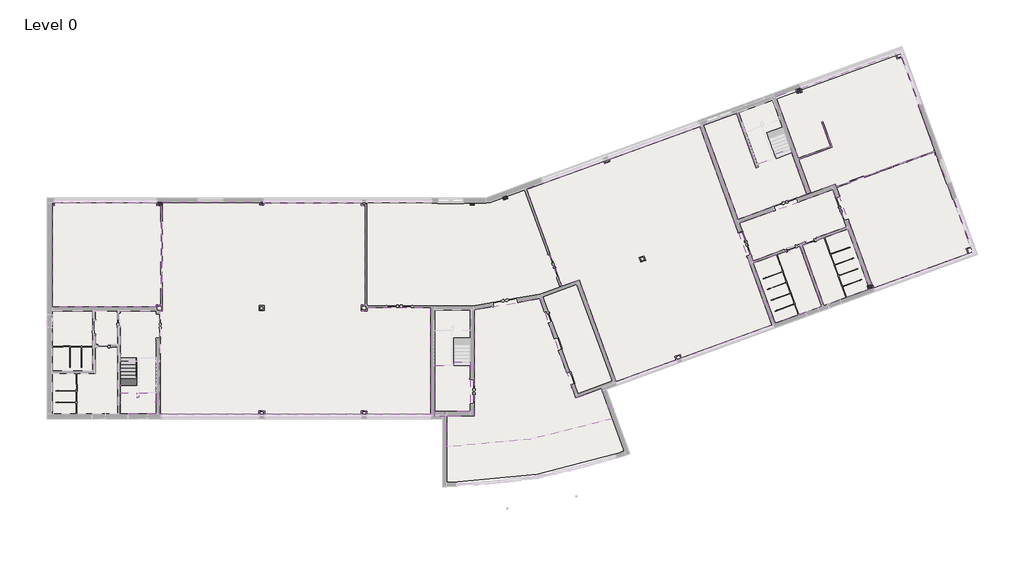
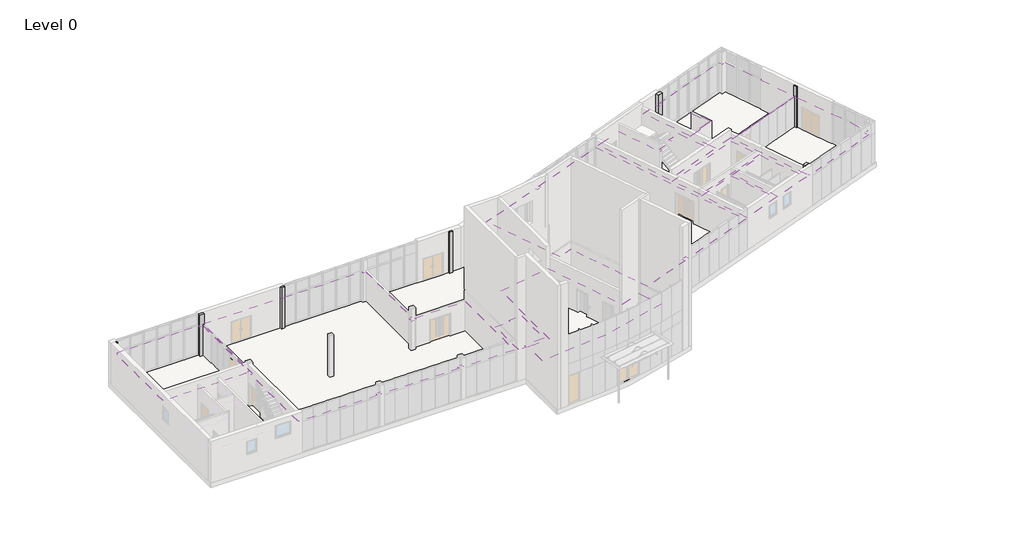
# One storey, part 10 of 14: 11 coverings, 8 columns, 4 proxies, 2 slabs, 1 stair flight.
"""IFC4 building model written with IfcOpenShell, lengths in millimetres."""

import ifcopenshell
import ifcopenshell.guid

model = None  # the IFC model being written
_history = None  # IfcOwnerHistory: only IFC2X3 demands one
_inside = {}  # id of a spatial element -> (the spatial element, [elements in it])
_under = {}  # id of a project, library or spatial element -> (it, [spatial elements below it])
_declared = {}  # id of a project -> (the project, [libraries it declares])
_typed = {}  # id of a type object -> (the type object, [elements of that type])
_made_of = {}  # id of a material, layer set ... -> (it, [elements and type objects made of it])


def new_model(schema):
    """Start an empty IFC model of exactly this schema.

    Asked for "IFC4X3", IfcOpenShell would pick the latest addendum, in which some entities
    have other attributes; the version numbers below select the first issue.
    IFC2X3 requires an IfcOwnerHistory on every rooted entity: one is made here for all.
    """
    global model, _history
    if schema == "IFC4X3":
        model = ifcopenshell.file(schema_version=(4, 3, 0, 0))
    else:
        model = ifcopenshell.file(schema=schema)
    _inside.clear()
    _under.clear()
    _declared.clear()
    _typed.clear()
    _made_of.clear()
    _history = None
    if model.schema == "IFC2X3":
        org = make("IfcOrganization", Name="unknown")
        user = make(
            "IfcPersonAndOrganization",
            ThePerson=make("IfcPerson", FamilyName="unknown"),
            TheOrganization=org,
        )
        app = make(
            "IfcApplication",
            ApplicationDeveloper=org,
            Version="unknown",
            ApplicationFullName="unknown",
            ApplicationIdentifier="unknown",
        )
        _history = make(
            "IfcOwnerHistory",
            OwningUser=user,
            OwningApplication=app,
            ChangeAction="ADDED",
            CreationDate=0,
        )
    return model


def make(cls, **values):
    """One entity of the class cls with the attributes given. An attribute that is None is left unset."""
    return model.create_entity(
        cls, **{name: value for name, value in values.items() if value is not None}
    )


def rooted(cls, **values):
    """An entity with a GlobalId (a new one), such as an element, a storey or a relation."""
    return make(cls, GlobalId=ifcopenshell.guid.new(), OwnerHistory=_history, **values)


def si_unit(unit_type, name, prefix=None):
    """IfcSIUnit, for example si_unit("LENGTHUNIT", "METRE", prefix="MILLI")."""
    return make("IfcSIUnit", UnitType=unit_type, Prefix=prefix, Name=name)


def assignment(units):
    """IfcUnitAssignment: the units of a project."""
    return None if units is None else make("IfcUnitAssignment", Units=units)


def point(xyz):
    """IfcCartesianPoint."""
    return None if xyz is None else make("IfcCartesianPoint", Coordinates=xyz)


def direction(xyz):
    """IfcDirection."""
    return None if xyz is None else make("IfcDirection", DirectionRatios=xyz)


def frame(location, z_axis=None, x_axis=None):
    """IfcAxis2Placement3D, a coordinate frame: its origin and axes. An axis left out is left unset."""
    return make(
        "IfcAxis2Placement3D",
        Location=point(location),
        Axis=direction(z_axis),
        RefDirection=direction(x_axis),
    )


def frame_2d(location, x_axis=None):
    """IfcAxis2Placement2D, a coordinate frame in the plane: its origin and x axis."""
    return make(
        "IfcAxis2Placement2D", Location=point(location), RefDirection=direction(x_axis)
    )


def origin():
    """The frame at (0, 0, 0) with its axes left unset."""
    return frame((0.0, 0.0, 0.0))


def origin_with_axes():
    """The frame at (0, 0, 0) with the z axis (0, 0, 1) and the x axis (1, 0, 0) written out."""
    return frame((0.0, 0.0, 0.0), z_axis=(0.0, 0.0, 1.0), x_axis=(1.0, 0.0, 0.0))


def place(relative_to, where):
    """IfcLocalPlacement: puts the frame where relative to a parent placement (None: the world)."""
    return make(
        "IfcLocalPlacement", PlacementRelTo=relative_to, RelativePlacement=where
    )


def context(
    kind, dimensions, precision=None, world=None, true_north=None, identifier=None
):
    """IfcGeometricRepresentationContext, for example the 3D "Model" context."""
    return make(
        "IfcGeometricRepresentationContext",
        ContextIdentifier=identifier,
        ContextType=kind,
        CoordinateSpaceDimension=dimensions,
        Precision=precision,
        WorldCoordinateSystem=world,
        TrueNorth=true_north,
    )


def project(units=None, contexts=None):
    """IfcProject with its units and contexts."""
    return rooted(
        "IfcProject",
        Name="project",
        RepresentationContexts=contexts,
        UnitsInContext=assignment(units),
    )


def spatial(cls, under=None, at=None, **own):
    """A site, building, storey or space (cls), placed at a placement, below another one or the project."""
    s = rooted(cls, ObjectPlacement=at, **own)
    if under is not None:
        _under.setdefault(under.id(), (under, []))[1].append(s)
    return s


def polyline(points):
    """IfcPolyline through the points."""
    return make("IfcPolyline", Points=[point(p) for p in points])


def circle_curve(where, radius):
    """IfcCircle in the frame where."""
    return make("IfcCircle", Position=where, Radius=radius)


def ellipse_curve(where, semi_axis1, semi_axis2):
    """IfcEllipse in the frame where."""
    return make(
        "IfcEllipse", Position=where, SemiAxis1=semi_axis1, SemiAxis2=semi_axis2
    )


def trimmed(basis, trim1, trim2, sense, master):
    """IfcTrimmedCurve: the piece of a basis curve between two trims."""
    return make(
        "IfcTrimmedCurve",
        BasisCurve=basis,
        Trim1=trim1,
        Trim2=trim2,
        SenseAgreement=sense,
        MasterRepresentation=master,
    )


def segment(curve, same_sense, transition):
    """IfcCompositeCurveSegment."""
    return make(
        "IfcCompositeCurveSegment",
        Transition=transition,
        SameSense=same_sense,
        ParentCurve=curve,
    )


def composite_curve(segments, self_intersect=None):
    """IfcCompositeCurve: segments joined end to end."""
    return make("IfcCompositeCurve", Segments=segments, SelfIntersect=self_intersect)


def outline(outer, holes=None, kind="AREA"):
    """IfcArbitraryClosedProfileDef: a profile drawn as a closed curve; with holes, ...WithVoids."""
    if holes is None:
        return make("IfcArbitraryClosedProfileDef", ProfileType=kind, OuterCurve=outer)
    return make(
        "IfcArbitraryProfileDefWithVoids",
        ProfileType=kind,
        OuterCurve=outer,
        InnerCurves=holes,
    )


def extrude(swept, where, along, depth):
    """IfcExtrudedAreaSolid: the profile swept, set in the frame where, extruded along a direction by depth."""
    return make(
        "IfcExtrudedAreaSolid",
        SweptArea=swept,
        Position=where,
        ExtrudedDirection=direction(along),
        Depth=depth,
    )


def faces_of(points, faces, orient=None, outer=None):
    """IfcFace entities. A face is a list of loops; a loop is a list of indices into points, from 0.

    orient and outer hold one flag for each loop. By default every Orientation is true, the
    first loop of a face is its IfcFaceOuterBound and the others are IfcFaceBound.
    """
    made = []
    for i, loops in enumerate(faces):
        bounds = []
        for j, loop in enumerate(loops):
            is_outer = j == 0 if outer is None else outer[i][j]
            bounds.append(
                make(
                    "IfcFaceOuterBound" if is_outer else "IfcFaceBound",
                    Bound=make("IfcPolyLoop", Polygon=[points[k] for k in loop]),
                    Orientation=True if orient is None else orient[i][j],
                )
            )
        made.append(make("IfcFace", Bounds=bounds))
    return made


def faceted_brep(points, faces, orient=None, outer=None, voids=None):
    """IfcFacetedBrep: a solid bounded by flat faces; with voids (closed shells), ...WithVoids."""
    shared = [point(p) for p in points]
    hull = make("IfcClosedShell", CfsFaces=faces_of(shared, faces, orient, outer))
    if voids is None:
        return make("IfcFacetedBrep", Outer=hull)
    return make(
        "IfcFacetedBrepWithVoids",
        Outer=hull,
        Voids=[
            make(cls, CfsFaces=faces_of(shared, fs, o, b)) for cls, fs, o, b in voids
        ],
    )


def shape(context_of_items, identifier, shape_type, items):
    """IfcShapeRepresentation: the items that make up one representation, for example the "Body"."""
    return make(
        "IfcShapeRepresentation",
        ContextOfItems=context_of_items,
        RepresentationIdentifier=identifier,
        RepresentationType=shape_type,
        Items=items,
    )


def source(mapping_origin, context_of_items, identifier, shape_type, items):
    """IfcRepresentationMap: a shape defined once, which mapped items show again and again."""
    return make(
        "IfcRepresentationMap",
        MappingOrigin=mapping_origin,
        MappedRepresentation=shape(context_of_items, identifier, shape_type, items),
    )


def transform(
    local_origin,
    x_axis=None,
    y_axis=None,
    z_axis=None,
    scale=None,
    scale2=None,
    scale3=None,
    uniform=True,
):
    """IfcCartesianTransformationOperator3D, or its non-uniform kind. x_axis, y_axis, z_axis: its Axis1, 2, 3."""
    if uniform:
        return make(
            "IfcCartesianTransformationOperator3D",
            Axis1=direction(x_axis),
            Axis2=direction(y_axis),
            LocalOrigin=point(local_origin),
            Scale=scale,
            Axis3=direction(z_axis),
        )
    return make(
        "IfcCartesianTransformationOperator3DnonUniform",
        Axis1=direction(x_axis),
        Axis2=direction(y_axis),
        LocalOrigin=point(local_origin),
        Scale=scale,
        Axis3=direction(z_axis),
        Scale2=scale2,
        Scale3=scale3,
    )


def mapped(mapping_source, mapping_target):
    """IfcMappedItem: shows the shape of a source again, moved by a transform."""
    return make(
        "IfcMappedItem", MappingSource=mapping_source, MappingTarget=mapping_target
    )


def made_of(thing, what):
    """Note that an element or type object is made of a material, layer set ...; save() writes the relation."""
    if what is not None:
        _made_of.setdefault(what.id(), (what, []))[1].append(thing)
    return thing


def element(
    cls,
    number,
    at=None,
    inside=None,
    cuts=None,
    type_object=None,
    material=None,
    context=None,
    identifier="Body",
    shape_type=None,
    held_by="IfcProductDefinitionShape",
    body=None,
    shapes=None,
    **own,
):
    """One element of the class cls, such as IfcWall. Its Tag is "e" and its number.

    at: its placement. inside: the storey or other place that contains it. cuts: it is an
    opening in that element (IfcRelVoidsElement). A single representation is given by context,
    identifier, shape_type and body (its items); several are given by shapes. held_by: the class
    of the entity that holds the representations. save() writes the other relations.
    """
    e = rooted(cls, Tag="e%d" % number, ObjectPlacement=at, **own)
    if body is not None:
        shapes = [shape(context, identifier, shape_type, body)]
    if shapes is not None:
        e.Representation = make(held_by, Representations=shapes)
    if inside is not None:
        _inside.setdefault(inside.id(), (inside, []))[1].append(e)
    if cuts is not None:
        rooted(
            "IfcRelVoidsElement", RelatingBuildingElement=cuts, RelatedOpeningElement=e
        )
    if type_object is not None:
        _typed.setdefault(type_object.id(), (type_object, []))[1].append(e)
    return made_of(e, material)


def aggregate(whole, parts):
    """IfcRelAggregates: a whole, such as a stair, and the parts it consists of."""
    return rooted("IfcRelAggregates", RelatingObject=whole, RelatedObjects=parts)


def save(model, path):
    """Write the relations noted so far, then the file.

    IfcRelAggregates (storeys below a building ...), IfcRelContainedInSpatialStructure (elements
    in a storey), IfcRelDefinesByType, IfcRelAssociatesMaterial and IfcRelDeclares: one each for
    every whole, place, type object, material and project.
    """
    for whole, parts in _under.values():
        aggregate(whole, parts)
    for where, things in _inside.values():
        rooted(
            "IfcRelContainedInSpatialStructure",
            RelatedElements=things,
            RelatingStructure=where,
        )
    for kind, things in _typed.values():
        rooted("IfcRelDefinesByType", RelatedObjects=things, RelatingType=kind)
    for what, things in _made_of.values():
        rooted("IfcRelAssociatesMaterial", RelatedObjects=things, RelatingMaterial=what)
    for by, libraries in _declared.values():
        rooted("IfcRelDeclares", RelatingContext=by, RelatedDefinitions=libraries)
    model.write(path)


def plane_surface(at):
    """IfcPlane: the flat surface through the origin of the frame at, square to its z axis."""
    return make("IfcPlane", Position=at)


def cylinder_surface(at, radius):
    """IfcCylindricalSurface: all points at the distance radius from the z axis of the frame at."""
    return make("IfcCylindricalSurface", Position=at, Radius=radius)


def revolved_surface(curve, axis_point, axis_direction):
    """IfcSurfaceOfRevolution: the curve turned about the line through axis_point along axis_direction."""
    return make(
        "IfcSurfaceOfRevolution",
        SweptCurve=make("IfcArbitraryOpenProfileDef", ProfileType="CURVE", Curve=curve),
        AxisPosition=make("IfcAxis1Placement", Location=point(axis_point), Axis=direction(axis_direction)),
    )


def advanced_brep(points, edges, surfaces, faces):
    """IfcAdvancedBrep: a solid bounded by faces that lie on surfaces and meet in shared edges.

    An edge is (start, end): straight between two places in points (the first is 0);
    or (start, end, curve); or (start, end, curve, False) where it runs against its curve.
    A face is (place in surfaces, loops), or (place, loops, False) where it looks against
    its surface's normal. A loop lists edges by number (the first is 1), with a minus sign
    where the edge is run from its end to its start. The first loop is the outer one.
    """
    corners = [point(p) for p in points]
    vertices = [make("IfcVertexPoint", VertexGeometry=c) for c in corners]
    made = []
    for start, end, *more in edges:
        made.append(
            make(
                "IfcEdgeCurve",
                EdgeStart=vertices[start],
                EdgeEnd=vertices[end],
                EdgeGeometry=more[0] if more else make("IfcPolyline", Points=[corners[start], corners[end]]),
                SameSense=more[1] if len(more) > 1 else True,
            )
        )
    hull = []
    for where, loops, *sense in faces:
        bounds = []
        for j, loop in enumerate(loops):
            ring = [make("IfcOrientedEdge", EdgeElement=made[abs(k) - 1], Orientation=k > 0) for k in loop]
            bounds.append(
                make(
                    "IfcFaceOuterBound" if j == 0 else "IfcFaceBound",
                    Bound=make("IfcEdgeLoop", EdgeList=ring),
                    Orientation=True,
                )
            )
        hull.append(make("IfcAdvancedFace", Bounds=bounds, FaceSurface=surfaces[where], SameSense=sense[0] if sense else True))
    return make("IfcAdvancedBrep", Outer=make("IfcClosedShell", CfsFaces=hull))


def support_metal_circular1_support_metal_circular_016e83f0(model_context):
    return source(origin(), model_context, "Body", "SolidModel", [
        advanced_brep(
        [(-6.0, 0.0, 0.0), (6.0, 0.0, 0.0), (-6.0, 0.0, -38.0), (6.0, 0.0, -38.0), (6.0, 12.0, -50.0), (-6.0, 12.0, -50.0), (-6.0, 63.0, -50.0), (6.0, 63.0, -50.0)],
        [
            (0, 1, circle_curve(origin_with_axes(), 6.0)),
            (1, 0, circle_curve(origin_with_axes(), 6.0)),
            (0, 2),
            (2, 3, circle_curve(frame((0.0, 0.0, -38.0), z_axis=(0.0, 0.0, 1.0), x_axis=(1.0, 0.0, 0.0)), 6.0)),
            (3, 1),
            (3, 2, circle_curve(frame((0.0, 0.0, -38.0), z_axis=(0.0, 0.0, 1.0), x_axis=(1.0, 0.0, 0.0)), 6.0)),
            (4, 3, circle_curve(frame((6.0, 12.0, -38.0), z_axis=(-1.0, 0.0, 0.0), x_axis=(0.0, -1.0, 0.0)), 12.0)),
            (2, 5, circle_curve(frame((-6.0, 12.0, -38.0), z_axis=(1.0, 0.0, 0.0), x_axis=(0.0, -1.0, 0.0)), 12.0)),
            (5, 4, circle_curve(frame((0.0, 12.0, -50.0), z_axis=(0.0, -1.0, 0.0), x_axis=(1.0, 0.0, 0.0)), 6.0)),
            (4, 5, circle_curve(frame((0.0, 12.0, -50.0), z_axis=(0.0, -1.0, 0.0), x_axis=(1.0, 0.0, 0.0)), 6.0)),
            (6, 7, circle_curve(frame((0.0, 63.0, -50.0), z_axis=(0.0, 1.0, 0.0), x_axis=(1.0, 0.0, 0.0)), 6.0)),
            (7, 6, circle_curve(frame((0.0, 63.0, -50.0), z_axis=(0.0, 1.0, 0.0), x_axis=(1.0, 0.0, 0.0)), 6.0)),
            (5, 6),
            (7, 4),
        ],
        [
            plane_surface(origin_with_axes()),
            cylinder_surface(origin_with_axes(), 6.0),
            revolved_surface(trimmed(ellipse_curve(frame((0.0, 0.0, -38.0), z_axis=(0.0, 0.0, 1.0), x_axis=(1.0, 0.0, 0.0)), 6.0, 6.0), [point((-6.0, 0.0, -38.0))], [point((6.0, 0.0, -38.0))], True, "CARTESIAN"), (0.0, 12.0, -38.0), (1.0, 0.0, 0.0)),
            revolved_surface(trimmed(ellipse_curve(frame((0.0, 0.0, -38.0), z_axis=(0.0, 0.0, 1.0), x_axis=(1.0, 0.0, 0.0)), 6.0, 6.0), [point((6.0, 0.0, -38.0))], [point((-6.0, 0.0, -38.0))], True, "CARTESIAN"), (0.0, 12.0, -38.0), (1.0, 0.0, 0.0)),
            plane_surface(frame((0.0, 63.0, -50.0), z_axis=(0.0, 1.0, 0.0), x_axis=(1.0, 0.0, 0.0))),
            cylinder_surface(frame((0.0, 12.0, -50.0), z_axis=(0.0, -1.0, 0.0), x_axis=(1.0, 0.0, 0.0)), 6.0),
        ],
        [
            (0, [[1, 2]]),
            (1, [[-1, 3, 4, 5]]),
            (1, [[-2, -5, 6, -3]]),
            (2, [[7, -4, 8, 9]]),
            (3, [[-8, -6, -7, 10]]),
            (4, [[11, 12]]),
            (5, [[-9, 13, -12, 14]]),
            (5, [[-10, -14, -11, -13]]),
        ],
    ),
        extrude(outline(composite_curve([segment(trimmed(circle_curve(frame_2d((-50.0, 0.0)), 25.0), [point((-50.0, -25.0))], [point((-50.0, 25.0))], False, "CARTESIAN"), True, "CONTINUOUS"), segment(trimmed(circle_curve(frame_2d((-50.0, 0.0)), 25.0), [point((-50.0, 25.0))], [point((-50.0, -25.0))], False, "CARTESIAN"), True, "CONTINUOUS")], self_intersect=False)), frame((0.0, 63.0, 0.0), z_axis=(0.0, 1.0, 0.0), x_axis=(0.0, 0.0, 1.0)), (0.0, 0.0, 1.0), 12.0),
    ])


model = new_model("IFC4")

# Units and contexts
model_context = context("Model", 3, world=origin())
ifc_project = project(units=[si_unit("LENGTHUNIT", "METRE", prefix="MILLI")], contexts=[model_context])

# Site, building, storey
site = spatial("IfcSite", under=ifc_project)
building = spatial("IfcBuilding", under=site)
storey = spatial("IfcBuildingStorey", under=building, Name="Level 0", Elevation=0.0)

# Proxies
placement = place(None, origin())
support_metal_circular1_support_metal_circular_shape = support_metal_circular1_support_metal_circular_016e83f0(model_context)
element("IfcBuildingElementProxy", 1, Name="Support - Metal - Circular1 : Support - Metal - Circular", ObjectType="Support - Metal - Circular1 : Support - Metal - Circular", at=placement, inside=storey, context=model_context, shape_type="MappedRepresentation", body=[
    mapped(support_metal_circular1_support_metal_circular_shape, transform((5322.6000024, 3439.4755703, 1669.5820057), x_axis=(0.0, 1.0, 0.0), y_axis=(-1.0, 0.0, 0.0), z_axis=(0.0, 0.0, 1.0))),
])
element("IfcBuildingElementProxy", 2, Name="Support - Metal - Circular1 : Support - Metal - Circular", ObjectType="Support - Metal - Circular1 : Support - Metal - Circular", at=placement, inside=storey, context=model_context, shape_type="MappedRepresentation", body=[
    mapped(support_metal_circular1_support_metal_circular_shape, transform((5322.6000024, 2334.2312733, 2453.300689), x_axis=(0.0, 1.0, 0.0), y_axis=(-1.0, 0.0, 0.0), z_axis=(0.0, 0.0, 1.0))),
])
element("IfcBuildingElementProxy", 3, Name="Support - Metal - Circular1 : Support - Metal - Circular", ObjectType="Support - Metal - Circular1 : Support - Metal - Circular", at=placement, inside=storey, context=model_context, shape_type="MappedRepresentation", body=[
    mapped(support_metal_circular1_support_metal_circular_shape, transform((5322.6000024, 1100.0, 2832.1192282), x_axis=(0.0, 1.0, 0.0), y_axis=(-1.0, 0.0, 0.0), z_axis=(0.0, 0.0, 1.0))),
])
element("IfcBuildingElementProxy", 4, Name="Support - Metal - Circular1 : Support - Metal - Circular", ObjectType="Support - Metal - Circular1 : Support - Metal - Circular", at=placement, inside=storey, context=model_context, shape_type="MappedRepresentation", body=[
    mapped(support_metal_circular1_support_metal_circular_shape, transform((7761.8000023, 1150.0, 2832.1192282), x_axis=(0.0, -1.0, 0.0), y_axis=(1.0, 0.0, 0.0), z_axis=(0.0, 0.0, 1.0))),
])

# Columns
element("IfcColumn", 5, ObjectType="Columns_Rectangular : 300x300mm", at=placement, inside=storey, context=model_context, shape_type="SweptSolid", body=[
    extrude(outline(polyline([(562.2000028, 15173.2000005), (433.0000024, 15173.2000005), (433.0000025, 15351.4000013), (562.2000028, 15351.4000013), (562.2000028, 15173.2000005)])), origin_with_axes(), (0.0, 0.0, 1.0), 3900.0),
])
element("IfcColumn", 6, ObjectType="Columns_Rectangular : 300x300mm", at=placement, inside=storey, context=model_context, shape_type="SweptSolid", body=[
    extrude(outline(polyline([(32891.9713576, 15685.7159924), (32610.0635714, 15583.1099494), (32541.5911387, 15771.236412), (32823.498925, 15873.842455), (32891.9713576, 15685.7159924)])), origin_with_axes(), (0.0, 0.0, 1.0), 3900.0),
])
element("IfcColumn", 7, ObjectType="Columns_Rectangular : 300x300mm", at=placement, inside=storey, context=model_context, shape_type="SweptSolid", body=[
    extrude(outline(polyline([(30512.2000025, 15213.2000005), (30212.2000025, 15213.2000005), (30212.2000025, 15351.4000004), (30512.2000025, 15351.4000004), (30512.2000025, 15213.2000005)])), origin_with_axes(), (0.0, 0.0, 1.0), 3900.0),
])
element("IfcColumn", 8, ObjectType="Columns_Rectangular : 300x300mm", at=placement, inside=storey, context=model_context, shape_type="Brep", body=[
    faceted_brep([(63263.387227, 19077.9273787, 3900.0), (63365.99327, 18796.0195924, 3900.0), (63459.9625309, 18830.2216063, 3900.0), (63357.356488, 19112.1293926, 3900.0), (63459.9625309, 18830.2216063, 0.0), (63365.99327, 18796.0195924, 0.0), (63279.6331838, 19033.2919792, 0.0), (63271.0826803, 19056.7842947, 0.0), (63263.387227, 19077.9273787, 0.0), (63357.356488, 19112.1293926, 0.0)], [[[0, 1, 2, 3]], [[4, 5, 6, 7, 8, 9]], [[8, 0, 3, 9]], [[1, 0, 8, 7, 6, 5]], [[1, 5, 4, 2]], [[3, 2, 4, 9]]]),
])
element("IfcColumn", 9, ObjectType="Columns_Rectangular : 300x300mm", at=placement, inside=storey, context=model_context, shape_type="SweptSolid", body=[
    extrude(outline(polyline([(15512.2000024, 15213.2000005), (15212.2000024, 15213.2000005), (15212.2000024, 15413.4000007), (15512.2000024, 15413.4000007), (15512.2000024, 15213.2000005)])), origin_with_axes(), (0.0, 0.0, 1.0), 3900.0),
])
element("IfcColumn", 10, ObjectType="Columns_Rectangular : 400x400mm", at=placement, inside=storey, context=model_context, shape_type="Brep", body=[
    faceted_brep([(7887.2000028, 15163.2000005, 3900.0), (8287.2000028, 15163.2000005, 3900.0), (8287.2000028, 15413.4000008, 3900.0), (7887.2000028, 15413.4000008, 3900.0), (7887.2000028, 15413.4000008, 0.0), (8287.2000028, 15413.4000008, 0.0), (8287.2000028, 15188.4000008, 0.0), (8167.2000028, 15188.4000008, 0.0), (8167.2000028, 15163.2000005, 0.0), (7887.2000028, 15163.2000005, 0.0), (8167.2000028, 15163.2000005, 2900.0), (8287.2000028, 15163.2000005, 2900.0), (8287.2000028, 15188.4000008, 2900.0), (8167.2000028, 15188.4000008, 2900.0)], [[[0, 1, 2, 3]], [[4, 5, 6, 7, 8, 9]], [[9, 0, 3, 4]], [[1, 0, 9, 8, 10, 11]], [[2, 1, 11, 12, 6, 5]], [[3, 2, 5, 4]], [[7, 13, 10, 8]], [[13, 7, 6, 12]], [[13, 12, 11, 10]]]),
])
element("IfcColumn", 11, ObjectType="Columns_Rectangular : 400x400mm", at=placement, inside=storey, context=model_context, shape_type="SweptSolid", body=[
    extrude(outline(polyline([(53911.2024396, 23282.8815641), (53535.3253912, 23146.0735068), (53428.5467025, 23439.4455429), (53804.4237508, 23576.2536002), (53911.2024396, 23282.8815641)])), origin_with_axes(), (0.0, 0.0, 1.0), 3900.0),
])
element("IfcColumn", 12, ObjectType="Columns_Rectangular : 400x400mm", at=placement, inside=storey, context=model_context, shape_type="Brep", body=[
    faceted_brep([(58904.6965317, 9563.3693005, 3900.0), (58528.8194834, 9426.5612432, 3900.0), (58614.3929232, 9191.4501495, 3900.0), (58990.2699716, 9328.2582068, 3900.0), (58614.3929232, 9191.4501495, 0.0), (58528.8194834, 9426.5612432, 0.0), (58622.7887454, 9460.7632574, 0.0), (58857.7119006, 9546.2682933, 0.0), (58904.6965317, 9563.3693005, 0.0), (58990.2699716, 9328.2582068, 0.0)], [[[0, 1, 2, 3]], [[4, 5, 6, 7, 8, 9]], [[1, 0, 8, 7, 6, 5]], [[1, 5, 4, 2]], [[8, 0, 3, 9]], [[3, 2, 4, 9]]]),
])

# Coverings
element("IfcCovering", 13, ObjectType="24\" x 24\"_Grid", at=placement, inside=storey, context=model_context, shape_type="SweptSolid", body=[
    extrude(outline(polyline([(22882.3447354, 7663.2000003), (22882.3447354, 7893.2000004), (27412.2000031, 7893.2000005), (27412.2000029, 269.9999995), (22862.3447354, 269.9999995), (22862.3447354, 538.199999), (22462.2000028, 538.199999), (22462.2000028, 269.9999995), (15562.3447355, 269.9999995), (15562.3447355, 538.199999), (15162.2000029, 538.199999), (15162.2000029, 269.9999995), (8187.2000027, 269.9999995), (8187.2000027, 313.0000001), (8087.2000022, 313.0000001), (8087.2000024, 7638.2000005), (8287.2000028, 7638.2000005), (8287.2000028, 15413.4000008), (15212.2000024, 15413.4000007), (15212.2000024, 15213.2000005), (15512.2000024, 15213.2000005), (15512.2000024, 15363.2000005), (22462.2000028, 15363.2000005), (22462.2000028, 15188.2000019), (22742.3447354, 15188.2000019), (22742.3447354, 8063.2000003), (22462.2000024, 8063.2000003), (22462.2000024, 7663.2000003), (22882.3447354, 7663.2000003)]), holes=[polyline([(15537.2000025, 7688.2000003), (15537.2000025, 8038.2000003), (15187.2000024, 8038.2000003), (15187.2000024, 7688.2000003), (15537.2000025, 7688.2000003)])]), frame((0.0, 0.0, 2800.0), z_axis=(0.0, 0.0, 1.0), x_axis=(1.0, 0.0, 0.0)), (0.0, 0.0, 1.0), 52.0),
])
element("IfcCovering", 14, ObjectType="24\" x 24\"_Grid", at=placement, inside=storey, context=model_context, shape_type="SweptSolid", body=[
    extrude(outline(polyline([(37985.6557273, 9877.5855238), (36735.8645417, 9422.6987332), (34204.8470773, 16376.6120655), (35384.1613169, 16805.8473456), (35396.8160621, 16771.0787187), (39742.8264311, 18352.8971307), (39807.1946218, 18176.0469802), (40183.0716701, 18312.8550375), (40118.7034794, 18489.705188), (46579.1582494, 20841.1184239), (51752.691745, 6626.9519648), (45292.236975, 4275.5387287), (45193.66677, 4546.3581414), (44817.7897216, 4409.5500841), (44916.3599267, 4138.7306713), (40640.8265039, 2582.5637698), (37985.6557273, 9877.5855238)]), holes=[polyline([(42724.7984316, 11256.6346278), (42605.0913814, 11585.5270451), (42276.1989642, 11465.8199949), (42395.9060144, 11136.9275777), (42724.7984316, 11256.6346278)])]), frame((0.0, 0.0, 2800.0), z_axis=(0.0, 0.0, 1.0), x_axis=(1.0, 0.0, 0.0)), (0.0, 0.0, 1.0), 52.0),
])
element("IfcCovering", 15, ObjectType="24\" x 24\"_Grid", at=placement, inside=storey, context=model_context, shape_type="SweptSolid", body=[
    extrude(outline(polyline([(28408.3766929, 146.0000008), (27712.2000028, 146.0000009), (27712.200003, 3763.2000006), (29052.2000029, 3763.2000006), (29052.2000029, 4013.2000006), (30212.2000024, 4013.2000006), (30212.2000023, 470.0000006), (28408.3766929, 470.0000006), (28408.3766929, 146.0000008)])), frame((0.0, 0.0, 2800.0), z_axis=(0.0, 0.0, 1.0), x_axis=(1.0, 0.0, 0.0)), (0.0, 0.0, 1.0), 52.0),
])
element("IfcCovering", 16, ObjectType="24\" x 24\"_Grid", at=placement, inside=storey, context=model_context, shape_type="SweptSolid", body=[
    extrude(outline(polyline([(50622.8530138, 17860.8385478), (50776.9710581, 17916.9066227), (50697.0762506, 18136.4158024), (52050.0788572, 18628.8684779), (51964.5738214, 18863.791633), (53045.2203355, 19257.1147979), (54237.3999491, 15981.6282294), (49318.7201794, 14191.3752015), (46856.9617939, 20955.0007783), (49187.8828531, 21803.3866622), (50622.8530138, 17860.8385478)])), frame((0.0, 0.0, 2800.0), z_axis=(0.0, 0.0, 1.0), x_axis=(1.0, 0.0, 0.0)), (0.0, 0.0, 1.0), 52.0),
])
element("IfcCovering", 17, ObjectType="24\" x 24\"_Grid", at=placement, inside=storey, context=model_context, shape_type="SweptSolid", body=[
    extrude(outline(polyline([(50396.1862368, 11231.0615383), (49421.3262224, 13909.4674153), (56069.6515144, 16329.2599291), (57044.5115288, 13650.8540521), (50396.1862368, 11231.0615383)])), frame((0.0, 0.0, 2800.0), z_axis=(0.0, 0.0, 1.0), x_axis=(1.0, 0.0, 0.0)), (0.0, 0.0, 1.0), 52.0),
])
element("IfcCovering", 18, ObjectType="24\" x 24\"_Grid", at=placement, inside=storey, context=model_context, shape_type="SweptSolid", body=[
    extrude(outline(polyline([(59011.8172406, 9269.0575717), (58904.6965317, 9563.3693005), (58857.7119006, 9546.2682933), (56325.9077899, 16502.3429187), (63256.1408745, 19024.7414778), (63351.0514643, 18763.9767754), (63468.5130346, 18806.7292907), (64639.3163891, 15589.9735111), (64698.5170243, 15611.5207802), (65929.7895403, 12228.6273452), (65588.6811194, 12104.4740334), (65730.6194788, 11714.5015961), (59011.8172406, 9269.0575717)])), frame((0.0, 0.0, 2800.0), z_axis=(0.0, 0.0, 1.0), x_axis=(1.0, 0.0, 0.0)), (0.0, 0.0, 1.0), 52.0),
])
element("IfcCovering", 19, ObjectType="24\" x 24\"_Grid", at=placement, inside=storey, context=model_context, shape_type="SweptSolid", body=[
    extrude(outline(polyline([(52027.7935973, 22929.6131071), (53428.5467025, 23439.4455429), (53535.3253912, 23146.0735068), (53911.2024395, 23282.8815641), (53817.0784962, 23541.4849732), (60535.8807344, 25986.9289976), (60664.8223283, 25632.6648797), (61005.9307492, 25756.8181916), (62237.203265, 22373.9247568), (62178.0026297, 22352.3774878), (63373.6024448, 19067.4939931), (56325.9077899, 16502.3429187), (56248.9532577, 16713.7737583), (54519.3077353, 16084.2342724), (53655.7108186, 18456.9473006), (56049.57777, 19328.2436156), (55378.2834324, 21172.6096503), (55289.0126334, 21140.1177367), (55927.8150575, 19385.0225009), (53623.218905, 18546.2180995), (52027.7935973, 22929.6131071)])), frame((0.0, 0.0, 2800.0), z_axis=(0.0, 0.0, 1.0), x_axis=(1.0, 0.0, 0.0)), (0.0, 0.0, 1.0), 52.0),
])
element("IfcCovering", 20, ObjectType="24\" x 24\"_Grid", at=placement, inside=storey, context=model_context, shape_type="SweptSolid", body=[
    extrude(outline(composite_curve([segment(polyline([(35172.4630866, 8542.9751377), (37756.3380613, 1443.836992), (39586.2234059, 2109.8607895), (40371.8140424, -48.5317453)]), True, "CONTINUOUS"), segment(trimmed(circle_curve(frame_2d((28027.924496, 36998.4991929)), 39049.3804108), [point((40371.8140424, -48.5317453))], [point((28564.8766926, -2047.1893375))], False, "CARTESIAN"), True, "CONTINUOUS"), segment(polyline([(28564.8766926, -2047.1893375), (28564.8766928, 170.0000006), (30512.2000023, 170.0000006), (30512.2000024, 7721.2450188), (35172.4630866, 8542.9751377)]), True, "CONTINUOUS")], self_intersect=False)), frame((0.0, 0.0, 2800.0), z_axis=(0.0, 0.0, 1.0), x_axis=(1.0, 0.0, 0.0)), (0.0, 0.0, 1.0), 52.0),
])
element("IfcCovering", 21, ObjectType="24\" x 24\"_Grid", at=placement, inside=storey, context=model_context, shape_type="SweptSolid", body=[
    extrude(outline(polyline([(7887.2000028, 15388.9000009), (7887.2000028, 15163.2000005), (8167.2000028, 15163.2000005), (8167.2000028, 8063.2000005), (7837.2000024, 8063.2000005), (7837.2000024, 7938.2000004), (433.0000013, 7938.2000004), (433.0000024, 15173.2000005), (562.2000028, 15173.2000005), (562.2000028, 15388.9000009), (7887.2000028, 15388.9000009)])), frame((0.0, 0.0, 2800.0), z_axis=(0.0, 0.0, 1.0), x_axis=(1.0, 0.0, 0.0)), (0.0, 0.0, 1.0), 52.0),
])
element("IfcCovering", 22, ObjectType="Plain", at=placement, inside=storey, context=model_context, shape_type="SweptSolid", body=[
    extrude(outline(polyline([(55295.3985864, 7983.4350033), (51966.0676312, 6771.6576357), (50405.2929092, 11059.8509413), (53734.6238645, 12271.628309), (55295.3985864, 7983.4350033)])), frame((0.0, 0.0, 2800.0), z_axis=(0.0, 0.0, 1.0), x_axis=(1.0, 0.0, 0.0)), (0.0, 0.0, 1.0), 57.0),
])
element("IfcCovering", 23, ObjectType="Plain", at=placement, inside=storey, context=model_context, shape_type="SweptSolid", body=[
    extrude(outline(polyline([(58661.3775542, 9208.5511566), (55449.5081762, 8039.5263068), (53888.7334543, 12327.7196125), (57100.6028323, 13496.7444623), (58661.3775542, 9208.5511566)])), frame((0.0, 0.0, 2800.0), z_axis=(0.0, 0.0, 1.0), x_axis=(1.0, 0.0, 0.0)), (0.0, 0.0, 1.0), 57.0),
])

# Slabs
element("IfcSlab", 24, ObjectType="8\"_Thickness", at=placement, inside=storey, context=model_context, shape_type="SolidModel", body=[
    faceted_brep([(6447.2000024, 1800.0, 1949.0), (5247.2000024, 1800.0, 1949.0), (5247.2000024, 1572.7280846, 1949.0), (5247.2000024, 300.0000001, 1949.0), (7837.2000023, 300.0000001, 1949.0), (7837.2000023, 1777.2719153, 1949.0), (7837.2000023, 1800.0, 1949.0), (6637.2000025, 1800.0, 1949.0), (6637.2000025, 1777.2719153, 1949.0), (6637.2000025, 1500.0, 1949.0), (6447.2000024, 1500.0, 1949.0), (6447.2000024, 1572.7280846, 1949.0), (6447.2000024, 1800.0, 1587.8435509), (6447.2000024, 1800.0, 1771.7272727), (6447.2000024, 1500.0, 1749.0), (6447.2000024, 1572.7280846, 1749.0), (5247.2000024, 1800.0, 1771.7272727), (5247.2000024, 1800.0, 1587.8435509), (5247.2000024, 1572.7280846, 1749.0), (5247.2000024, 300.0000001, 1749.0), (6637.2000025, 1800.0, 1765.1162782), (6637.2000025, 1777.2719153, 1749.0), (6637.2000025, 1500.0, 1749.0), (7837.2000023, 1777.2719153, 1749.0), (7837.2000023, 300.0000001, 1749.0), (7837.2000023, 1800.0, 1765.1162782)], [[[0, 1, 2, 3, 4, 5, 6, 7, 8, 9, 10, 11]], [[12, 13, 0, 11, 10, 14, 15]], [[1, 16, 17, 18, 19, 3, 2]], [[7, 20, 21, 22, 9, 8]], [[18, 15, 14, 22, 21, 23, 24, 19]], [[15, 18, 17, 12]], [[23, 21, 20, 25]], [[1, 0, 13, 12, 17, 16]], [[4, 3, 19, 24]], [[4, 24, 23, 25, 6, 5]], [[7, 6, 25, 20]], [[10, 9, 22, 14]]]),
    extrude(outline(polyline([(6447.2000024, 1800.0), (6447.2000024, 1500.0), (6637.2000025, 1500.0), (6637.2000025, 1800.0), (7837.2000023, 1800.0), (7837.2000023, 300.0000001), (5247.2000024, 300.0000001), (5247.2000024, 1800.0), (6447.2000024, 1800.0)])), frame((0.0, 0.0, 1949.0), z_axis=(0.0, 0.0, 1.0), x_axis=(1.0, 0.0, 0.0)), (0.0, 0.0, 1.0), 1.0),
])
element("IfcSlab", 25, ObjectType="Generic - 6\"", at=placement, inside=storey, context=model_context, shape_type="SweptSolid", body=[
    extrude(outline(composite_curve([segment(trimmed(circle_curve(frame_2d((28251.8766926, 34165.8732259)), 38761.3804108), [point((41238.0521583, -2355.4062989))], [point((28539.8766925, -4594.4372393))], False, "CARTESIAN"), True, "CONTINUOUS"), segment(polyline([(28539.8766925, -4594.4372393), (28539.8766928, 300.0000005), (407.9999989, 313.0000007), (408.0000013, 15363.2000005), (31601.9396293, 15363.2000005), (60886.1238516, 25974.8803698), (66023.0228145, 11861.366462), (39568.1602739, 2232.5839466), (41238.0521583, -2355.4062989)]), True, "CONTINUOUS")], self_intersect=False)), frame((0.0, 0.0, -140.0), z_axis=(0.0, 0.0, 1.0), x_axis=(1.0, 0.0, 0.0)), (0.0, 0.0, 1.0), 140.0),
])

# Stair flight
element("IfcStairFlight", 26, ObjectType="1/16\"_Tread-6\"_Depth", at=placement, inside=storey, context=model_context, shape_type="SolidModel", body=[
    faceted_brep([(6447.2000024, 4050.0, 176.2727273), (6447.2000024, 4300.0, 176.2727273), (5247.2000024, 4300.0, 176.2727273), (5247.2000024, 4050.0, 176.2727273), (6447.2000024, 4050.0, 0.0), (6447.2000024, 4300.0, 0.0), (5247.2000024, 4300.0, 0.0), (5247.2000024, 4050.0, 0.0), (6447.2000024, 3800.0, 353.5454545), (6447.2000024, 4050.0, 353.5454545), (5247.2000024, 4050.0, 353.5454545), (5247.2000024, 3800.0, 353.5454545), (6447.2000024, 3800.0, 169.6617328), (6447.2000024, 4039.2665462, 0.0), (5247.2000024, 4039.2665462, 0.0), (5247.2000024, 3800.0, 169.6617328), (6447.2000024, 3550.0, 530.8181818), (6447.2000024, 3800.0, 530.8181818), (5247.2000024, 3800.0, 530.8181818), (5247.2000024, 3550.0, 530.8181818), (6447.2000024, 3550.0, 346.93446), (5247.2000024, 3550.0, 346.93446), (6447.2000024, 3300.0, 708.0909091), (6447.2000024, 3550.0, 708.0909091), (5247.2000024, 3550.0, 708.0909091), (5247.2000024, 3300.0, 708.0909091), (6447.2000024, 3300.0, 524.2071873), (5247.2000024, 3300.0, 524.2071873), (6447.2000024, 3050.0, 885.3636364), (6447.2000024, 3300.0, 885.3636364), (5247.2000024, 3300.0, 885.3636364), (5247.2000024, 3050.0, 885.3636364), (6447.2000024, 3050.0, 701.4799146), (5247.2000024, 3050.0, 701.4799146), (6447.2000024, 2800.0, 1062.6363636), (6447.2000024, 3050.0, 1062.6363636), (5247.2000024, 3050.0, 1062.6363636), (5247.2000024, 2800.0, 1062.6363636), (6447.2000024, 2800.0, 878.7526418), (5247.2000024, 2800.0, 878.7526418), (6447.2000024, 2550.0, 1239.9090909), (6447.2000024, 2800.0, 1239.9090909), (5247.2000024, 2800.0, 1239.9090909), (5247.2000024, 2550.0, 1239.9090909), (6447.2000024, 2550.0, 1056.0253691), (5247.2000024, 2550.0, 1056.0253691), (6447.2000024, 2300.0, 1417.1818182), (6447.2000024, 2550.0, 1417.1818182), (5247.2000024, 2550.0, 1417.1818182), (5247.2000024, 2300.0, 1417.1818182), (6447.2000024, 2300.0, 1233.2980964), (5247.2000024, 2300.0, 1233.2980964), (6447.2000024, 2050.0, 1594.4545455), (6447.2000024, 2300.0, 1594.4545455), (5247.2000024, 2300.0, 1594.4545455), (5247.2000024, 2050.0, 1594.4545455), (6447.2000024, 2050.0, 1410.5708237), (5247.2000024, 2050.0, 1410.5708237), (6447.2000024, 1800.0, 1587.8435509), (5247.2000024, 1800.0, 1587.8435509), (6447.2000024, 1800.0, 1771.7272727), (6447.2000024, 2050.0, 1771.7272727), (5247.2000024, 2050.0, 1771.7272727), (5247.2000024, 1800.0, 1771.7272727)], [[[0, 1, 2, 3]], [[1, 0, 4, 5]], [[2, 1, 5, 6]], [[3, 2, 6, 7]], [[8, 9, 10, 11]], [[4, 0, 9, 8, 12, 13]], [[0, 3, 10, 9]], [[3, 7, 14, 15, 11, 10]], [[16, 17, 18, 19]], [[17, 16, 20, 12, 8]], [[8, 11, 18, 17]], [[19, 18, 11, 15, 21]], [[22, 23, 24, 25]], [[23, 22, 26, 20, 16]], [[16, 19, 24, 23]], [[25, 24, 19, 21, 27]], [[28, 29, 30, 31]], [[29, 28, 32, 26, 22]], [[22, 25, 30, 29]], [[31, 30, 25, 27, 33]], [[34, 35, 36, 37]], [[35, 34, 38, 32, 28]], [[28, 31, 36, 35]], [[37, 36, 31, 33, 39]], [[40, 41, 42, 43]], [[41, 40, 44, 38, 34]], [[34, 37, 42, 41]], [[43, 42, 37, 39, 45]], [[46, 47, 48, 49]], [[47, 46, 50, 44, 40]], [[40, 43, 48, 47]], [[49, 48, 43, 45, 51]], [[52, 53, 54, 55]], [[53, 52, 56, 50, 46]], [[46, 49, 54, 53]], [[55, 54, 49, 51, 57]], [[5, 4, 13, 14, 7, 6]], [[14, 13, 12, 20, 26, 32, 38, 44, 50, 56, 58, 59, 57, 51, 45, 39, 33, 27, 21, 15]], [[60, 61, 62, 63]], [[61, 60, 58, 56, 52]], [[52, 55, 62, 61]], [[63, 62, 55, 57, 59]], [[60, 63, 59, 58]]]),
    extrude(outline(polyline([(6447.2000024, 4050.0), (5247.2000024, 4050.0), (5247.2000024, 4300.0), (6447.2000024, 4300.0), (6447.2000024, 4050.0)])), frame((0.0, 0.0, 176.2727273), z_axis=(0.0, 0.0, 1.0), x_axis=(1.0, 0.0, 0.0)), (0.0, 0.0, 1.0), 1.0),
    extrude(outline(polyline([(6447.2000024, 3800.0), (5247.2000024, 3800.0), (5247.2000024, 4050.0), (6447.2000024, 4050.0), (6447.2000024, 3800.0)])), frame((0.0, 0.0, 353.5454545), z_axis=(0.0, 0.0, 1.0), x_axis=(1.0, 0.0, 0.0)), (0.0, 0.0, 1.0), 1.0),
    extrude(outline(polyline([(6447.2000024, 3550.0), (5247.2000024, 3550.0), (5247.2000024, 3800.0), (6447.2000024, 3800.0), (6447.2000024, 3550.0)])), frame((0.0, 0.0, 530.8181818), z_axis=(0.0, 0.0, 1.0), x_axis=(1.0, 0.0, 0.0)), (0.0, 0.0, 1.0), 1.0),
    extrude(outline(polyline([(6447.2000024, 3300.0), (5247.2000024, 3300.0), (5247.2000024, 3550.0), (6447.2000024, 3550.0), (6447.2000024, 3300.0)])), frame((0.0, 0.0, 708.0909091), z_axis=(0.0, 0.0, 1.0), x_axis=(1.0, 0.0, 0.0)), (0.0, 0.0, 1.0), 1.0),
    extrude(outline(polyline([(6447.2000024, 3050.0), (5247.2000024, 3050.0), (5247.2000024, 3300.0), (6447.2000024, 3300.0), (6447.2000024, 3050.0)])), frame((0.0, 0.0, 885.3636364), z_axis=(0.0, 0.0, 1.0), x_axis=(1.0, 0.0, 0.0)), (0.0, 0.0, 1.0), 1.0),
    extrude(outline(polyline([(6447.2000024, 2800.0), (5247.2000024, 2800.0), (5247.2000024, 3050.0), (6447.2000024, 3050.0), (6447.2000024, 2800.0)])), frame((0.0, 0.0, 1062.6363636), z_axis=(0.0, 0.0, 1.0), x_axis=(1.0, 0.0, 0.0)), (0.0, 0.0, 1.0), 1.0),
    extrude(outline(polyline([(6447.2000024, 2550.0), (5247.2000024, 2550.0), (5247.2000024, 2800.0), (6447.2000024, 2800.0), (6447.2000024, 2550.0)])), frame((0.0, 0.0, 1239.9090909), z_axis=(0.0, 0.0, 1.0), x_axis=(1.0, 0.0, 0.0)), (0.0, 0.0, 1.0), 1.0),
    extrude(outline(polyline([(6447.2000024, 2300.0), (5247.2000024, 2300.0), (5247.2000024, 2550.0), (6447.2000024, 2550.0), (6447.2000024, 2300.0)])), frame((0.0, 0.0, 1417.1818182), z_axis=(0.0, 0.0, 1.0), x_axis=(1.0, 0.0, 0.0)), (0.0, 0.0, 1.0), 1.0),
    extrude(outline(polyline([(6447.2000024, 2050.0), (5247.2000024, 2050.0), (5247.2000024, 2300.0), (6447.2000024, 2300.0), (6447.2000024, 2050.0)])), frame((0.0, 0.0, 1594.4545455), z_axis=(0.0, 0.0, 1.0), x_axis=(1.0, 0.0, 0.0)), (0.0, 0.0, 1.0), 1.0),
    extrude(outline(polyline([(6447.2000024, 1800.0), (5247.2000024, 1800.0), (5247.2000024, 2050.0), (6447.2000024, 2050.0), (6447.2000024, 1800.0)])), frame((0.0, 0.0, 1771.7272727), z_axis=(0.0, 0.0, 1.0), x_axis=(1.0, 0.0, 0.0)), (0.0, 0.0, 1.0), 1.0),
])

save(model, "model.ifc")
